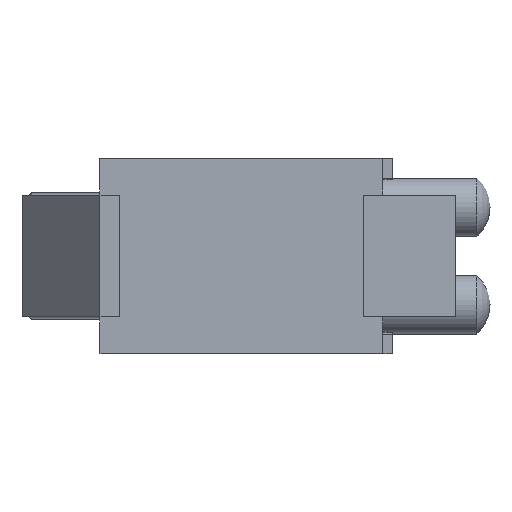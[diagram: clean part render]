
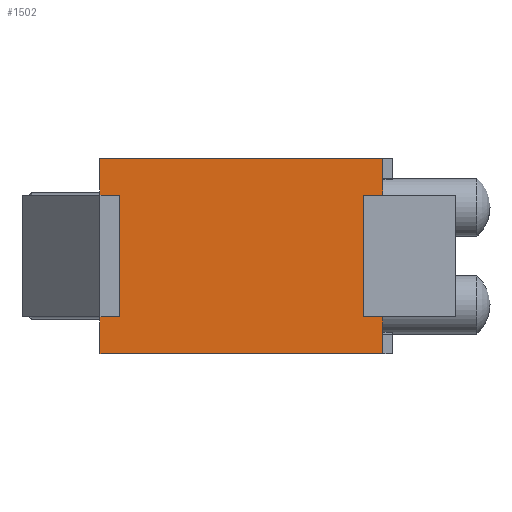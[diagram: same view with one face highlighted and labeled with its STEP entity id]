
A CAD part, left-side view. The second image highlights one B-rep face of the part: STEP entity #1502.
In plain terms, the highlighted planar face has unit normal (-1, 0, 0).
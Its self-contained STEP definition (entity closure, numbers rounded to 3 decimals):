
#169=ORIENTED_EDGE('',*,*,#547,.F.);
#170=ORIENTED_EDGE('',*,*,#548,.F.);
#171=ORIENTED_EDGE('',*,*,#549,.F.);
#172=ORIENTED_EDGE('',*,*,#550,.T.);
#173=ORIENTED_EDGE('',*,*,#551,.T.);
#174=ORIENTED_EDGE('',*,*,#552,.F.);
#175=ORIENTED_EDGE('',*,*,#553,.T.);
#176=ORIENTED_EDGE('',*,*,#554,.T.);
#177=ORIENTED_EDGE('',*,*,#555,.T.);
#178=ORIENTED_EDGE('',*,*,#556,.F.);
#179=ORIENTED_EDGE('',*,*,#557,.F.);
#180=ORIENTED_EDGE('',*,*,#558,.T.);
#547=EDGE_CURVE('',#736,#737,#877,.T.);
#548=EDGE_CURVE('',#738,#736,#878,.T.);
#549=EDGE_CURVE('',#739,#738,#879,.T.);
#550=EDGE_CURVE('',#739,#740,#880,.T.);
#551=EDGE_CURVE('',#740,#741,#881,.T.);
#552=EDGE_CURVE('',#742,#741,#882,.T.);
#553=EDGE_CURVE('',#742,#743,#883,.T.);
#554=EDGE_CURVE('',#743,#744,#884,.T.);
#555=EDGE_CURVE('',#744,#745,#885,.T.);
#556=EDGE_CURVE('',#746,#745,#886,.T.);
#557=EDGE_CURVE('',#747,#746,#887,.T.);
#558=EDGE_CURVE('',#747,#737,#888,.T.);
#736=VERTEX_POINT('',#2325);
#737=VERTEX_POINT('',#2326);
#738=VERTEX_POINT('',#2328);
#739=VERTEX_POINT('',#2330);
#740=VERTEX_POINT('',#2332);
#741=VERTEX_POINT('',#2334);
#742=VERTEX_POINT('',#2336);
#743=VERTEX_POINT('',#2338);
#744=VERTEX_POINT('',#2340);
#745=VERTEX_POINT('',#2342);
#746=VERTEX_POINT('',#2344);
#747=VERTEX_POINT('',#2346);
#877=LINE('',#2324,#1009);
#878=LINE('',#2327,#1010);
#879=LINE('',#2329,#1011);
#880=LINE('',#2331,#1012);
#881=LINE('',#2333,#1013);
#882=LINE('',#2335,#1014);
#883=LINE('',#2337,#1015);
#884=LINE('',#2339,#1016);
#885=LINE('',#2341,#1017);
#886=LINE('',#2343,#1018);
#887=LINE('',#2345,#1019);
#888=LINE('',#2347,#1020);
#1009=VECTOR('',#1868,1000.);
#1010=VECTOR('',#1869,1000.);
#1011=VECTOR('',#1870,1000.);
#1012=VECTOR('',#1871,1000.);
#1013=VECTOR('',#1872,1000.);
#1014=VECTOR('',#1873,1000.);
#1015=VECTOR('',#1874,1000.);
#1016=VECTOR('',#1875,1000.);
#1017=VECTOR('',#1876,1000.);
#1018=VECTOR('',#1877,1000.);
#1019=VECTOR('',#1878,1000.);
#1020=VECTOR('',#1879,1000.);
#1141=EDGE_LOOP('',(#169,#170,#171,#172,#173,#174,#175,#176,#177,#178,#179,
#180));
#1291=FACE_BOUND('',#1141,.T.);
#1441=PLANE('',#1702);
#1502=ADVANCED_FACE('',(#1291),#1441,.F.);
#1702=AXIS2_PLACEMENT_3D('',#2323,#1866,#1867);
#1866=DIRECTION('',(1.,0.,0.));
#1867=DIRECTION('',(0.,0.,-1.));
#1868=DIRECTION('',(0.,1.,0.));
#1869=DIRECTION('',(0.,0.,1.));
#1870=DIRECTION('',(0.,-1.,0.));
#1871=DIRECTION('',(0.,0.,-1.));
#1872=DIRECTION('',(0.,-1.,0.));
#1873=DIRECTION('',(0.,0.,-1.));
#1874=DIRECTION('',(0.,1.,0.));
#1875=DIRECTION('',(0.,0.,1.));
#1876=DIRECTION('',(0.,-1.,0.));
#1877=DIRECTION('',(0.,0.,-1.));
#1878=DIRECTION('',(0.,-1.,0.));
#1879=DIRECTION('',(0.,0.,-1.));
#2323=CARTESIAN_POINT('',(0.,30.,10.));
#2324=CARTESIAN_POINT('',(0.,30.,6.25));
#2325=CARTESIAN_POINT('',(0.,28.,6.25));
#2326=CARTESIAN_POINT('',(0.,30.,6.25));
#2327=CARTESIAN_POINT('',(0.,28.,10.));
#2328=CARTESIAN_POINT('',(0.,28.,-6.25));
#2329=CARTESIAN_POINT('',(0.,30.,-6.25));
#2330=CARTESIAN_POINT('',(0.,30.,-6.25));
#2331=CARTESIAN_POINT('',(0.,30.,10.));
#2332=CARTESIAN_POINT('',(0.,30.,-10.));
#2333=CARTESIAN_POINT('',(0.,30.,-10.));
#2334=CARTESIAN_POINT('',(0.,1.,-10.));
#2335=CARTESIAN_POINT('',(0.,1.,10.));
#2336=CARTESIAN_POINT('',(0.,1.,-6.25));
#2337=CARTESIAN_POINT('',(0.,30.,-6.25));
#2338=CARTESIAN_POINT('',(0.,3.,-6.25));
#2339=CARTESIAN_POINT('',(0.,3.,10.));
#2340=CARTESIAN_POINT('',(0.,3.,6.25));
#2341=CARTESIAN_POINT('',(0.,30.,6.25));
#2342=CARTESIAN_POINT('',(0.,1.,6.25));
#2343=CARTESIAN_POINT('',(0.,1.,10.));
#2344=CARTESIAN_POINT('',(0.,1.,10.));
#2345=CARTESIAN_POINT('',(0.,30.,10.));
#2346=CARTESIAN_POINT('',(0.,30.,10.));
#2347=CARTESIAN_POINT('',(0.,30.,10.));
